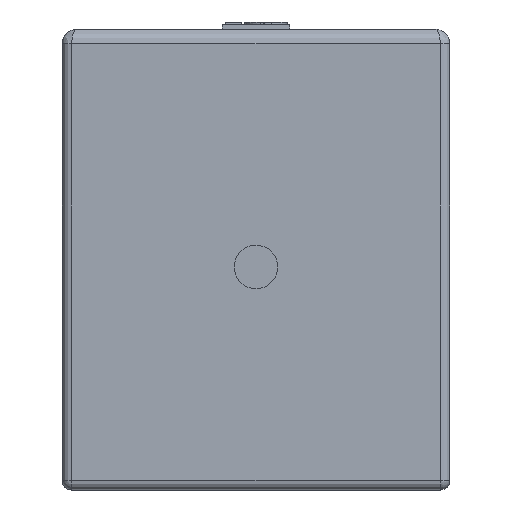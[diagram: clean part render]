
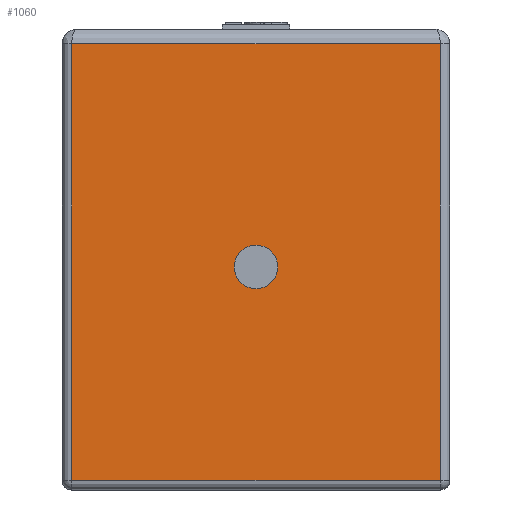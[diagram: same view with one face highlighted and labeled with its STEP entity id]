
A CAD part, front view. The second image highlights one B-rep face of the part: STEP entity #1060.
In plain terms, the highlighted planar face has unit normal (0, -1, 0).
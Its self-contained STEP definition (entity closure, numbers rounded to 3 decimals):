
#25=FACE_BOUND('',#249,.T.);
#60=CIRCLE('',#1132,4.5);
#171=FACE_OUTER_BOUND('',#248,.T.);
#248=EDGE_LOOP('',(#889,#890,#891,#892));
#249=EDGE_LOOP('',(#893));
#326=LINE('',#1844,#410);
#327=LINE('',#1846,#411);
#329=LINE('',#1884,#413);
#333=LINE('',#1892,#417);
#410=VECTOR('',#1470,10.);
#411=VECTOR('',#1473,10.);
#413=VECTOR('',#1483,10.);
#417=VECTOR('',#1495,10.);
#460=VERTEX_POINT('',#1694);
#490=VERTEX_POINT('',#1793);
#493=VERTEX_POINT('',#1802);
#494=VERTEX_POINT('',#1838);
#496=VERTEX_POINT('',#1878);
#563=EDGE_CURVE('',#460,#460,#60,.T.);
#619=EDGE_CURVE('',#494,#493,#326,.T.);
#620=EDGE_CURVE('',#493,#490,#327,.T.);
#625=EDGE_CURVE('',#490,#496,#329,.T.);
#629=EDGE_CURVE('',#496,#494,#333,.T.);
#889=ORIENTED_EDGE('',*,*,#619,.F.);
#890=ORIENTED_EDGE('',*,*,#629,.F.);
#891=ORIENTED_EDGE('',*,*,#625,.F.);
#892=ORIENTED_EDGE('',*,*,#620,.F.);
#893=ORIENTED_EDGE('',*,*,#563,.T.);
#927=PLANE('',#1193);
#1060=ADVANCED_FACE('',(#171,#25),#927,.T.);
#1132=AXIS2_PLACEMENT_3D('',#1695,#1335,#1336);
#1193=AXIS2_PLACEMENT_3D('',#1894,#1498,#1499);
#1335=DIRECTION('center_axis',(0.,1.,0.));
#1336=DIRECTION('ref_axis',(1.,0.,0.));
#1470=DIRECTION('',(0.,0.,-1.));
#1473=DIRECTION('',(-1.,0.,0.));
#1483=DIRECTION('',(0.,0.,1.));
#1495=DIRECTION('',(1.,0.,0.));
#1498=DIRECTION('center_axis',(0.,-1.,0.));
#1499=DIRECTION('ref_axis',(1.,0.,0.));
#1694=CARTESIAN_POINT('',(-4.5,-625.,46.));
#1695=CARTESIAN_POINT('Origin',(0.,-625.,46.));
#1793=CARTESIAN_POINT('',(-38.,-625.,2.));
#1802=CARTESIAN_POINT('',(38.,-625.,2.));
#1838=CARTESIAN_POINT('',(38.,-625.,92.));
#1844=CARTESIAN_POINT('',(38.,-625.,0.));
#1846=CARTESIAN_POINT('',(-20.,-625.,2.));
#1878=CARTESIAN_POINT('',(-38.,-625.,92.));
#1884=CARTESIAN_POINT('',(-38.,-625.,0.));
#1892=CARTESIAN_POINT('',(-20.,-625.,92.));
#1894=CARTESIAN_POINT('Origin',(-40.,-625.,0.));
